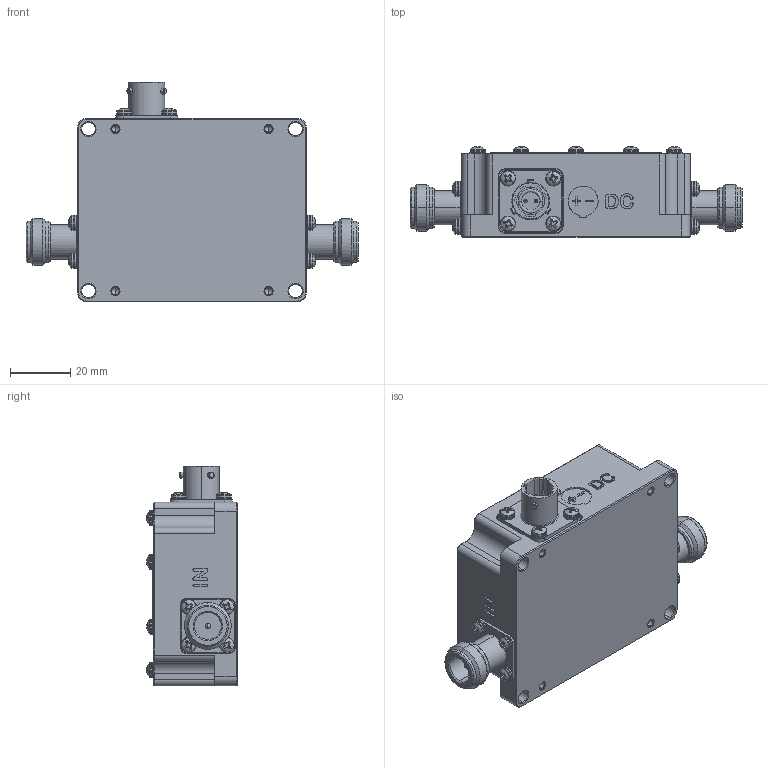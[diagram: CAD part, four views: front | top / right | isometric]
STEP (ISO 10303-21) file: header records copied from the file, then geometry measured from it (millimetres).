
FILE_DESCRIPTION (( 'STEP AP203' ), '1' );
FILE_NAME ('800-0032-00.STEP', '2026-07-27T19:00:37', ( '' ), ( '' ), 'SwSTEP 2.0', 'SolidWorks 2024', '' );
FILE_SCHEMA (( 'CONFIG_CONTROL_DESIGN' ));
Length unit declared in the file: millimetre
Products named in the file (11): SCREW_DIN7985_M2.5_x6mm_long; Washer_Flat_M2.5_98689A111_98689A111; 400-0072-00; Label-1x2in; Amphenol-172117; Gasket_pt02_shell-8; Gasket_Bias-T; Amphenol PT02A-8-2P v7; 400-0073-00; 800-0032-00; Washer_Split_Lock_M2.5
Assembly tree (62 placements, depth 2):
  800-0032-00
    400-0072-00
    Amphenol-172117  x2
    Amphenol PT02A-8-2P v7
    400-0073-00
    Label-1x2in
    Gasket_Bias-T
    Washer_Flat_M2.5_98689A111_98689A111  x10
    Washer_Split_Lock_M2.5  x22
    SCREW_DIN7985_M2.5_x6mm_long  x22
    Gasket_pt02_shell-8
Bounding box: 110.6 x 30.13 x 73.26 mm (x, y, z)
Volume: 87074.9 mm3; surface area: 46134.2 mm2
Topology: 65 solids, 65 shells, 1844 faces, 4554 edges, 2878 vertices
Faces by surface type: plane 771, cylinder 407, cone 308, bspline 202, torus 108, sphere 48
Entity records: 34128 total; most frequent: CARTESIAN_POINT 12540, ORIENTED_EDGE 3986, DIRECTION 3849, EDGE_CURVE 1993, AXIS2_PLACEMENT_3D 1440, VERTEX_POINT 1245, EDGE_LOOP 974, LINE 969
